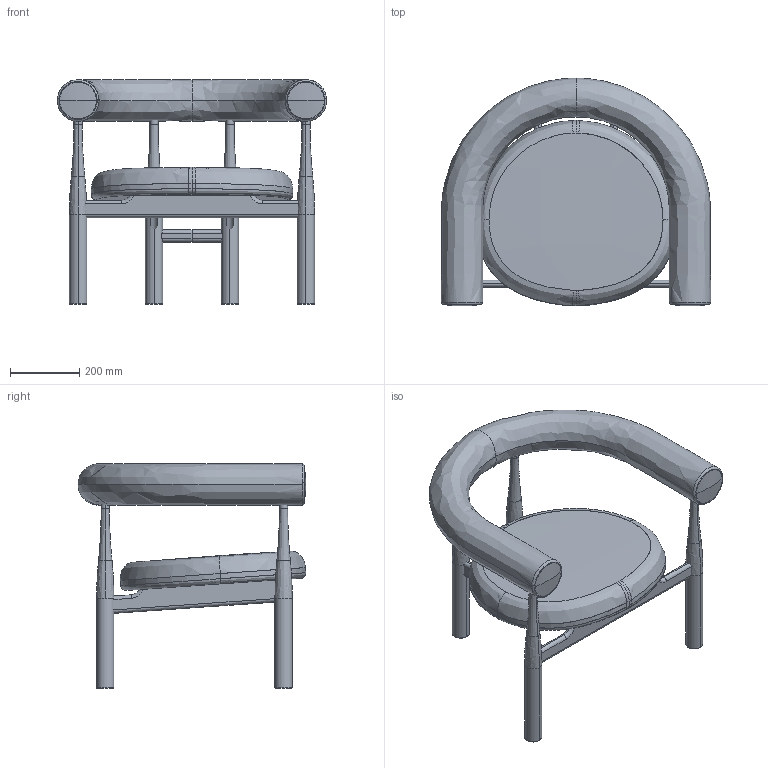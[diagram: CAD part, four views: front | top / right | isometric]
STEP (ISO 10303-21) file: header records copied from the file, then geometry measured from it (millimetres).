
FILE_DESCRIPTION(/* description */ (''),/* implementation_level */ '2;1');
FILE_NAME(/* name */ 'Bukowski Lounge Chair',/* time_stamp */ '2025-07-01T10:34:06+02:00',/* author */ (''),/* organization */ (''),/* preprocessor_version */ 'ST-DEVELOPER v19.2',/* originating_system */ 'Rhino 8.19',/* authorisation */ '');
FILE_SCHEMA (('CONFIG_CONTROL_DESIGN'));
Length unit declared in the file: millimetre
Products named in the file (1): Document
Bounding box: 780 x 660.03 x 650 mm (x, y, z)
Volume: 22809529.5 mm3; surface area: 1813267.5 mm2
Topology: 8 solids, 9 shells, 153 faces, 348 edges, 209 vertices
Faces by surface type: bspline 71, cylinder 48, plane 34
Entity records: 17811 total; most frequent: CARTESIAN_POINT 14815, ORIENTED_EDGE 674, DIRECTION 388, EDGE_CURVE 348, AXIS2_PLACEMENT_3D 235, VERTEX_POINT 209, B_SPLINE_CURVE_WITH_KNOTS 174, EDGE_LOOP 159
